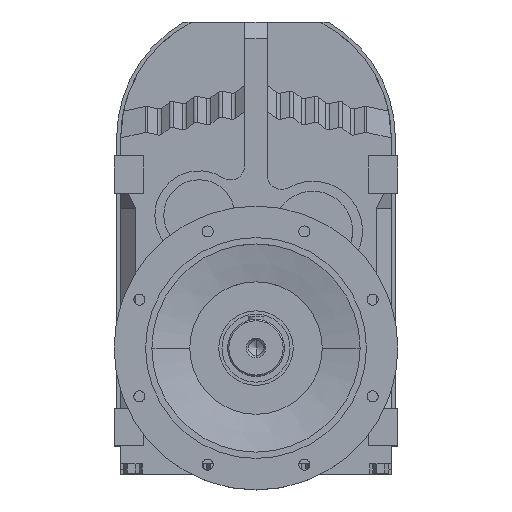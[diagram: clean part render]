
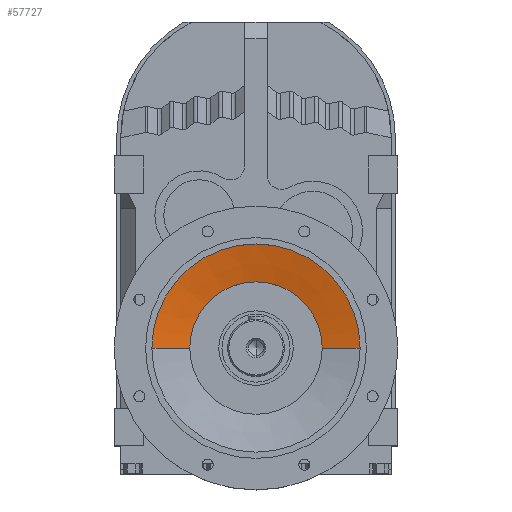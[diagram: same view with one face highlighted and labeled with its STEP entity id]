
A CAD part, top view. The second image highlights one B-rep face of the part: STEP entity #57727.
In plain terms, the highlighted conical face has half-angle 77.775 degrees and reference radius 165 mm.
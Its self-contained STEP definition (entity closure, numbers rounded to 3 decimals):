
#57597 = VERTEX_POINT('',#57598);
#57598 = CARTESIAN_POINT('',(165.,-332.4,344.5));
#57605 = CYLINDRICAL_SURFACE('',#57606,165.);
#57606 = AXIS2_PLACEMENT_3D('',#57607,#57608,#57609);
#57607 = CARTESIAN_POINT('',(0.,-332.4,0.));
#57608 = DIRECTION('',(0.,0.,-1.));
#57609 = DIRECTION('',(-1.,0.,0.));
#57627 = EDGE_CURVE('',#57628,#57597,#57630,.T.);
#57628 = VERTEX_POINT('',#57629);
#57629 = CARTESIAN_POINT('',(-165.,-332.4,344.5));
#57630 = SURFACE_CURVE('',#57631,(#57636,#57642),.PCURVE_S1.);
#57631 = CIRCLE('',#57632,165.);
#57632 = AXIS2_PLACEMENT_3D('',#57633,#57634,#57635);
#57633 = CARTESIAN_POINT('',(0.,-332.4,344.5));
#57634 = DIRECTION('',(0.,0.,-1.));
#57635 = DIRECTION('',(-1.,0.,0.));
#57636 = PCURVE('',#57605,#57637);
#57637 = DEFINITIONAL_REPRESENTATION('',(#57638),#57641);
#57638 = B_SPLINE_CURVE_WITH_KNOTS('',1,(#57639,#57640),.UNSPECIFIED.,
  .F.,.F.,(2,2),(0.,3.142),.PIECEWISE_BEZIER_KNOTS.);
#57639 = CARTESIAN_POINT('',(0.,-344.5));
#57640 = CARTESIAN_POINT('',(3.142,-344.5));
#57641 = ( GEOMETRIC_REPRESENTATION_CONTEXT(2) 
PARAMETRIC_REPRESENTATION_CONTEXT() REPRESENTATION_CONTEXT('2D SPACE',''
  ) );
#57642 = PCURVE('',#57643,#57648);
#57643 = CONICAL_SURFACE('',#57644,165.,1.357);
#57644 = AXIS2_PLACEMENT_3D('',#57645,#57646,#57647);
#57645 = CARTESIAN_POINT('',(0.,-332.4,344.5));
#57646 = DIRECTION('',(0.,0.,1.));
#57647 = DIRECTION('',(1.,0.,0.));
#57648 = DEFINITIONAL_REPRESENTATION('',(#57649),#57675);
#57649 = B_SPLINE_CURVE_WITH_KNOTS('',3,(#57650,#57651,#57652,#57653,
    #57654,#57655,#57656,#57657,#57658,#57659,#57660,#57661,#57662,
    #57663,#57664,#57665,#57666,#57667,#57668,#57669,#57670,#57671,
    #57672,#57673,#57674),.UNSPECIFIED.,.F.,.F.,(4,1,1,1,1,1,1,1,1,1,1,1
    ,1,1,1,1,1,1,1,1,1,1,4),(0.,0.143,0.286,
    0.428,0.571,0.714,0.857,
    1.,1.142,1.285,1.428,
    1.571,1.714,1.856,1.999,
    2.142,2.285,2.428,2.57,
    2.713,2.856,2.999,3.142),
  .QUASI_UNIFORM_KNOTS.);
#57650 = CARTESIAN_POINT('',(3.142,0.));
#57651 = CARTESIAN_POINT('',(3.094,0.));
#57652 = CARTESIAN_POINT('',(2.999,0.));
#57653 = CARTESIAN_POINT('',(2.856,0.));
#57654 = CARTESIAN_POINT('',(2.713,0.));
#57655 = CARTESIAN_POINT('',(2.57,0.));
#57656 = CARTESIAN_POINT('',(2.428,0.));
#57657 = CARTESIAN_POINT('',(2.285,0.));
#57658 = CARTESIAN_POINT('',(2.142,0.));
#57659 = CARTESIAN_POINT('',(1.999,0.));
#57660 = CARTESIAN_POINT('',(1.856,0.));
#57661 = CARTESIAN_POINT('',(1.714,0.));
#57662 = CARTESIAN_POINT('',(1.571,0.));
#57663 = CARTESIAN_POINT('',(1.428,0.));
#57664 = CARTESIAN_POINT('',(1.285,0.));
#57665 = CARTESIAN_POINT('',(1.142,0.));
#57666 = CARTESIAN_POINT('',(1.,0.));
#57667 = CARTESIAN_POINT('',(0.857,0.));
#57668 = CARTESIAN_POINT('',(0.714,0.));
#57669 = CARTESIAN_POINT('',(0.571,0.));
#57670 = CARTESIAN_POINT('',(0.428,0.));
#57671 = CARTESIAN_POINT('',(0.286,0.));
#57672 = CARTESIAN_POINT('',(0.143,0.));
#57673 = CARTESIAN_POINT('',(0.048,0.));
#57674 = CARTESIAN_POINT('',(0.,0.));
#57675 = ( GEOMETRIC_REPRESENTATION_CONTEXT(2) 
PARAMETRIC_REPRESENTATION_CONTEXT() REPRESENTATION_CONTEXT('2D SPACE',''
  ) );
#57727 = ADVANCED_FACE('',(#57728),#57643,.F.);
#57728 = FACE_BOUND('',#57729,.F.);
#57729 = EDGE_LOOP('',(#57730,#57756,#57757,#57778));
#57730 = ORIENTED_EDGE('',*,*,#57731,.T.);
#57731 = EDGE_CURVE('',#57732,#57628,#57734,.T.);
#57732 = VERTEX_POINT('',#57733);
#57733 = CARTESIAN_POINT('',(-105.,-332.4,331.5));
#57734 = SURFACE_CURVE('',#57735,(#57739,#57745),.PCURVE_S1.);
#57735 = LINE('',#57736,#57737);
#57736 = CARTESIAN_POINT('',(-165.,-332.4,344.5));
#57737 = VECTOR('',#57738,1.);
#57738 = DIRECTION('',(-0.977,0.,
    0.212));
#57739 = PCURVE('',#57643,#57740);
#57740 = DEFINITIONAL_REPRESENTATION('',(#57741),#57744);
#57741 = B_SPLINE_CURVE_WITH_KNOTS('',1,(#57742,#57743),.UNSPECIFIED.,
  .F.,.F.,(2,2),(-61.392,0.),.PIECEWISE_BEZIER_KNOTS.);
#57742 = CARTESIAN_POINT('',(3.142,-13.));
#57743 = CARTESIAN_POINT('',(3.142,0.));
#57744 = ( GEOMETRIC_REPRESENTATION_CONTEXT(2) 
PARAMETRIC_REPRESENTATION_CONTEXT() REPRESENTATION_CONTEXT('2D SPACE',''
  ) );
#57745 = PCURVE('',#57746,#57751);
#57746 = CONICAL_SURFACE('',#57747,165.,1.357);
#57747 = AXIS2_PLACEMENT_3D('',#57748,#57749,#57750);
#57748 = CARTESIAN_POINT('',(0.,-332.4,344.5));
#57749 = DIRECTION('',(0.,0.,1.));
#57750 = DIRECTION('',(1.,0.,0.));
#57751 = DEFINITIONAL_REPRESENTATION('',(#57752),#57755);
#57752 = B_SPLINE_CURVE_WITH_KNOTS('',1,(#57753,#57754),.UNSPECIFIED.,
  .F.,.F.,(2,2),(-61.392,0.),.PIECEWISE_BEZIER_KNOTS.);
#57753 = CARTESIAN_POINT('',(3.142,-13.));
#57754 = CARTESIAN_POINT('',(3.142,0.));
#57755 = ( GEOMETRIC_REPRESENTATION_CONTEXT(2) 
PARAMETRIC_REPRESENTATION_CONTEXT() REPRESENTATION_CONTEXT('2D SPACE',''
  ) );
#57756 = ORIENTED_EDGE('',*,*,#57627,.T.);
#57757 = ORIENTED_EDGE('',*,*,#57758,.F.);
#57758 = EDGE_CURVE('',#57759,#57597,#57761,.T.);
#57759 = VERTEX_POINT('',#57760);
#57760 = CARTESIAN_POINT('',(105.,-332.4,331.5));
#57761 = SURFACE_CURVE('',#57762,(#57766,#57772),.PCURVE_S1.);
#57762 = LINE('',#57763,#57764);
#57763 = CARTESIAN_POINT('',(165.,-332.4,344.5));
#57764 = VECTOR('',#57765,1.);
#57765 = DIRECTION('',(0.977,0.,0.212));
#57766 = PCURVE('',#57643,#57767);
#57767 = DEFINITIONAL_REPRESENTATION('',(#57768),#57771);
#57768 = B_SPLINE_CURVE_WITH_KNOTS('',1,(#57769,#57770),.UNSPECIFIED.,
  .F.,.F.,(2,2),(-61.392,0.),.PIECEWISE_BEZIER_KNOTS.);
#57769 = CARTESIAN_POINT('',(0.,-13.));
#57770 = CARTESIAN_POINT('',(0.,0.));
#57771 = ( GEOMETRIC_REPRESENTATION_CONTEXT(2) 
PARAMETRIC_REPRESENTATION_CONTEXT() REPRESENTATION_CONTEXT('2D SPACE',''
  ) );
#57772 = PCURVE('',#57746,#57773);
#57773 = DEFINITIONAL_REPRESENTATION('',(#57774),#57777);
#57774 = B_SPLINE_CURVE_WITH_KNOTS('',1,(#57775,#57776),.UNSPECIFIED.,
  .F.,.F.,(2,2),(-61.392,0.),.PIECEWISE_BEZIER_KNOTS.);
#57775 = CARTESIAN_POINT('',(6.283,-13.));
#57776 = CARTESIAN_POINT('',(6.283,0.));
#57777 = ( GEOMETRIC_REPRESENTATION_CONTEXT(2) 
PARAMETRIC_REPRESENTATION_CONTEXT() REPRESENTATION_CONTEXT('2D SPACE',''
  ) );
#57778 = ORIENTED_EDGE('',*,*,#57779,.F.);
#57779 = EDGE_CURVE('',#57732,#57759,#57780,.T.);
#57780 = SURFACE_CURVE('',#57781,(#57786,#57815),.PCURVE_S1.);
#57781 = CIRCLE('',#57782,105.);
#57782 = AXIS2_PLACEMENT_3D('',#57783,#57784,#57785);
#57783 = CARTESIAN_POINT('',(0.,-332.4,331.5));
#57784 = DIRECTION('',(0.,0.,-1.));
#57785 = DIRECTION('',(-1.,0.,0.));
#57786 = PCURVE('',#57643,#57787);
#57787 = DEFINITIONAL_REPRESENTATION('',(#57788),#57814);
#57788 = B_SPLINE_CURVE_WITH_KNOTS('',3,(#57789,#57790,#57791,#57792,
    #57793,#57794,#57795,#57796,#57797,#57798,#57799,#57800,#57801,
    #57802,#57803,#57804,#57805,#57806,#57807,#57808,#57809,#57810,
    #57811,#57812,#57813),.UNSPECIFIED.,.F.,.F.,(4,1,1,1,1,1,1,1,1,1,1,1
    ,1,1,1,1,1,1,1,1,1,1,4),(0.,0.143,0.286,
    0.428,0.571,0.714,0.857,
    1.,1.142,1.285,1.428,
    1.571,1.714,1.856,1.999,
    2.142,2.285,2.428,2.57,
    2.713,2.856,2.999,3.142),
  .QUASI_UNIFORM_KNOTS.);
#57789 = CARTESIAN_POINT('',(3.142,-13.));
#57790 = CARTESIAN_POINT('',(3.094,-13.));
#57791 = CARTESIAN_POINT('',(2.999,-13.));
#57792 = CARTESIAN_POINT('',(2.856,-13.));
#57793 = CARTESIAN_POINT('',(2.713,-13.));
#57794 = CARTESIAN_POINT('',(2.57,-13.));
#57795 = CARTESIAN_POINT('',(2.428,-13.));
#57796 = CARTESIAN_POINT('',(2.285,-13.));
#57797 = CARTESIAN_POINT('',(2.142,-13.));
#57798 = CARTESIAN_POINT('',(1.999,-13.));
#57799 = CARTESIAN_POINT('',(1.856,-13.));
#57800 = CARTESIAN_POINT('',(1.714,-13.));
#57801 = CARTESIAN_POINT('',(1.571,-13.));
#57802 = CARTESIAN_POINT('',(1.428,-13.));
#57803 = CARTESIAN_POINT('',(1.285,-13.));
#57804 = CARTESIAN_POINT('',(1.142,-13.));
#57805 = CARTESIAN_POINT('',(1.,-13.));
#57806 = CARTESIAN_POINT('',(0.857,-13.));
#57807 = CARTESIAN_POINT('',(0.714,-13.));
#57808 = CARTESIAN_POINT('',(0.571,-13.));
#57809 = CARTESIAN_POINT('',(0.428,-13.));
#57810 = CARTESIAN_POINT('',(0.286,-13.));
#57811 = CARTESIAN_POINT('',(0.143,-13.));
#57812 = CARTESIAN_POINT('',(0.048,-13.));
#57813 = CARTESIAN_POINT('',(0.,-13.));
#57814 = ( GEOMETRIC_REPRESENTATION_CONTEXT(2) 
PARAMETRIC_REPRESENTATION_CONTEXT() REPRESENTATION_CONTEXT('2D SPACE',''
  ) );
#57815 = PCURVE('',#57816,#57821);
#57816 = CYLINDRICAL_SURFACE('',#57817,105.);
#57817 = AXIS2_PLACEMENT_3D('',#57818,#57819,#57820);
#57818 = CARTESIAN_POINT('',(0.,-332.4,0.));
#57819 = DIRECTION('',(0.,0.,-1.));
#57820 = DIRECTION('',(-1.,0.,0.));
#57821 = DEFINITIONAL_REPRESENTATION('',(#57822),#57825);
#57822 = B_SPLINE_CURVE_WITH_KNOTS('',1,(#57823,#57824),.UNSPECIFIED.,
  .F.,.F.,(2,2),(0.,3.142),.PIECEWISE_BEZIER_KNOTS.);
#57823 = CARTESIAN_POINT('',(0.,-331.5));
#57824 = CARTESIAN_POINT('',(3.142,-331.5));
#57825 = ( GEOMETRIC_REPRESENTATION_CONTEXT(2) 
PARAMETRIC_REPRESENTATION_CONTEXT() REPRESENTATION_CONTEXT('2D SPACE',''
  ) );
